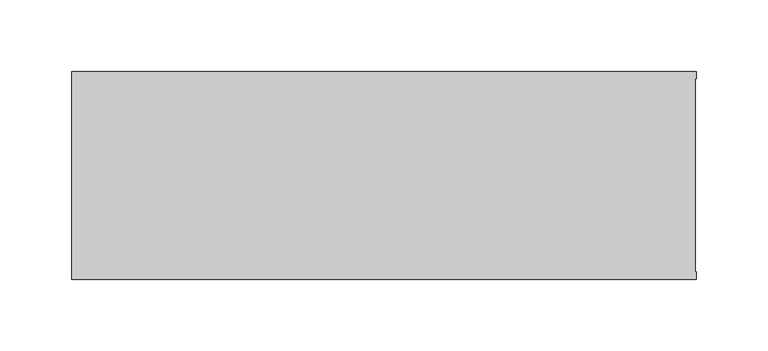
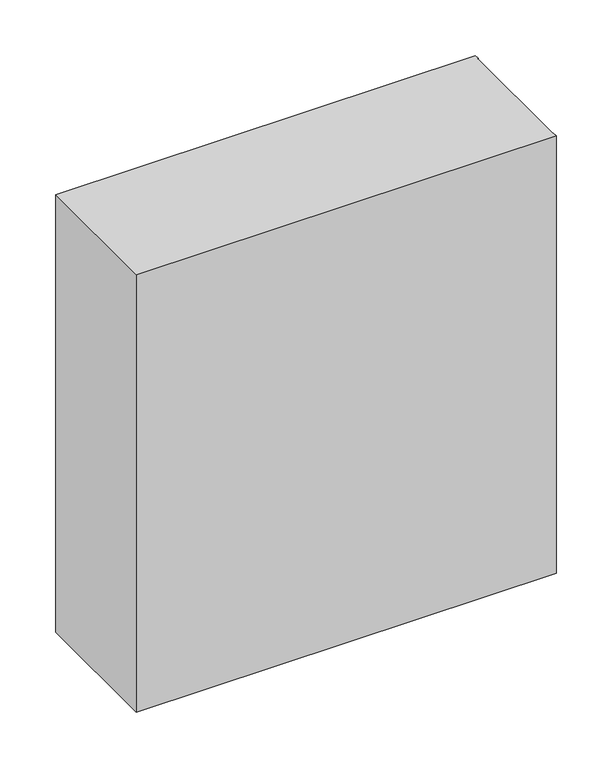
"""IFC4 building model written with IfcOpenShell, lengths in millimetres: proxy geometry, BIMHealth-Danicentre_ppe_Dispenser-LOD2A-v1 : BIMHealth-Danicentre_ppe_Dispenser-LOD2A-v1."""

import ifcopenshell
import ifcopenshell.guid

model = None  # the IFC model being written
_history = None  # IfcOwnerHistory: only IFC2X3 demands one
_inside = {}  # id of a spatial element -> (the spatial element, [elements in it])
_under = {}  # id of a project, library or spatial element -> (it, [spatial elements below it])
_declared = {}  # id of a project -> (the project, [libraries it declares])
_typed = {}  # id of a type object -> (the type object, [elements of that type])
_made_of = {}  # id of a material, layer set ... -> (it, [elements and type objects made of it])


def new_model(schema):
    """Start an empty IFC model of exactly this schema.

    Asked for "IFC4X3", IfcOpenShell would pick the latest addendum, in which some entities
    have other attributes; the version numbers below select the first issue.
    IFC2X3 requires an IfcOwnerHistory on every rooted entity: one is made here for all.
    """
    global model, _history
    if schema == "IFC4X3":
        model = ifcopenshell.file(schema_version=(4, 3, 0, 0))
    else:
        model = ifcopenshell.file(schema=schema)
    _inside.clear()
    _under.clear()
    _declared.clear()
    _typed.clear()
    _made_of.clear()
    _history = None
    if model.schema == "IFC2X3":
        org = make("IfcOrganization", Name="unknown")
        user = make(
            "IfcPersonAndOrganization",
            ThePerson=make("IfcPerson", FamilyName="unknown"),
            TheOrganization=org,
        )
        app = make(
            "IfcApplication",
            ApplicationDeveloper=org,
            Version="unknown",
            ApplicationFullName="unknown",
            ApplicationIdentifier="unknown",
        )
        _history = make(
            "IfcOwnerHistory",
            OwningUser=user,
            OwningApplication=app,
            ChangeAction="ADDED",
            CreationDate=0,
        )
    return model


def make(cls, **values):
    """One entity of the class cls with the attributes given. An attribute that is None is left unset."""
    return model.create_entity(
        cls, **{name: value for name, value in values.items() if value is not None}
    )


def rooted(cls, **values):
    """An entity with a GlobalId (a new one), such as an element, a storey or a relation."""
    return make(cls, GlobalId=ifcopenshell.guid.new(), OwnerHistory=_history, **values)


def si_unit(unit_type, name, prefix=None):
    """IfcSIUnit, for example si_unit("LENGTHUNIT", "METRE", prefix="MILLI")."""
    return make("IfcSIUnit", UnitType=unit_type, Prefix=prefix, Name=name)


def assignment(units):
    """IfcUnitAssignment: the units of a project."""
    return None if units is None else make("IfcUnitAssignment", Units=units)


def point(xyz):
    """IfcCartesianPoint."""
    return None if xyz is None else make("IfcCartesianPoint", Coordinates=xyz)


def direction(xyz):
    """IfcDirection."""
    return None if xyz is None else make("IfcDirection", DirectionRatios=xyz)


def frame(location, z_axis=None, x_axis=None):
    """IfcAxis2Placement3D, a coordinate frame: its origin and axes. An axis left out is left unset."""
    return make(
        "IfcAxis2Placement3D",
        Location=point(location),
        Axis=direction(z_axis),
        RefDirection=direction(x_axis),
    )


def origin():
    """The frame at (0, 0, 0) with its axes left unset."""
    return frame((0.0, 0.0, 0.0))


def place(relative_to, where):
    """IfcLocalPlacement: puts the frame where relative to a parent placement (None: the world)."""
    return make(
        "IfcLocalPlacement", PlacementRelTo=relative_to, RelativePlacement=where
    )


def context(
    kind, dimensions, precision=None, world=None, true_north=None, identifier=None
):
    """IfcGeometricRepresentationContext, for example the 3D "Model" context."""
    return make(
        "IfcGeometricRepresentationContext",
        ContextIdentifier=identifier,
        ContextType=kind,
        CoordinateSpaceDimension=dimensions,
        Precision=precision,
        WorldCoordinateSystem=world,
        TrueNorth=true_north,
    )


def project(units=None, contexts=None):
    """IfcProject with its units and contexts."""
    return rooted(
        "IfcProject",
        Name="project",
        RepresentationContexts=contexts,
        UnitsInContext=assignment(units),
    )


def spatial(cls, under=None, at=None, **own):
    """A site, building, storey or space (cls), placed at a placement, below another one or the project."""
    s = rooted(cls, ObjectPlacement=at, **own)
    if under is not None:
        _under.setdefault(under.id(), (under, []))[1].append(s)
    return s


def polyline(points):
    """IfcPolyline through the points."""
    return make("IfcPolyline", Points=[point(p) for p in points])


def circle_curve(where, radius):
    """IfcCircle in the frame where."""
    return make("IfcCircle", Position=where, Radius=radius)


def shape(context_of_items, identifier, shape_type, items):
    """IfcShapeRepresentation: the items that make up one representation, for example the "Body"."""
    return make(
        "IfcShapeRepresentation",
        ContextOfItems=context_of_items,
        RepresentationIdentifier=identifier,
        RepresentationType=shape_type,
        Items=items,
    )


def source(mapping_origin, context_of_items, identifier, shape_type, items):
    """IfcRepresentationMap: a shape defined once, which mapped items show again and again."""
    return make(
        "IfcRepresentationMap",
        MappingOrigin=mapping_origin,
        MappedRepresentation=shape(context_of_items, identifier, shape_type, items),
    )


def transform(
    local_origin,
    x_axis=None,
    y_axis=None,
    z_axis=None,
    scale=None,
    scale2=None,
    scale3=None,
    uniform=True,
):
    """IfcCartesianTransformationOperator3D, or its non-uniform kind. x_axis, y_axis, z_axis: its Axis1, 2, 3."""
    if uniform:
        return make(
            "IfcCartesianTransformationOperator3D",
            Axis1=direction(x_axis),
            Axis2=direction(y_axis),
            LocalOrigin=point(local_origin),
            Scale=scale,
            Axis3=direction(z_axis),
        )
    return make(
        "IfcCartesianTransformationOperator3DnonUniform",
        Axis1=direction(x_axis),
        Axis2=direction(y_axis),
        LocalOrigin=point(local_origin),
        Scale=scale,
        Axis3=direction(z_axis),
        Scale2=scale2,
        Scale3=scale3,
    )


def mapped(mapping_source, mapping_target):
    """IfcMappedItem: shows the shape of a source again, moved by a transform."""
    return make(
        "IfcMappedItem", MappingSource=mapping_source, MappingTarget=mapping_target
    )


def made_of(thing, what):
    """Note that an element or type object is made of a material, layer set ...; save() writes the relation."""
    if what is not None:
        _made_of.setdefault(what.id(), (what, []))[1].append(thing)
    return thing


def element(
    cls,
    number,
    at=None,
    inside=None,
    cuts=None,
    type_object=None,
    material=None,
    context=None,
    identifier="Body",
    shape_type=None,
    held_by="IfcProductDefinitionShape",
    body=None,
    shapes=None,
    **own,
):
    """One element of the class cls, such as IfcWall. Its Tag is "e" and its number.

    at: its placement. inside: the storey or other place that contains it. cuts: it is an
    opening in that element (IfcRelVoidsElement). A single representation is given by context,
    identifier, shape_type and body (its items); several are given by shapes. held_by: the class
    of the entity that holds the representations. save() writes the other relations.
    """
    e = rooted(cls, Tag="e%d" % number, ObjectPlacement=at, **own)
    if body is not None:
        shapes = [shape(context, identifier, shape_type, body)]
    if shapes is not None:
        e.Representation = make(held_by, Representations=shapes)
    if inside is not None:
        _inside.setdefault(inside.id(), (inside, []))[1].append(e)
    if cuts is not None:
        rooted(
            "IfcRelVoidsElement", RelatingBuildingElement=cuts, RelatedOpeningElement=e
        )
    if type_object is not None:
        _typed.setdefault(type_object.id(), (type_object, []))[1].append(e)
    return made_of(e, material)


def aggregate(whole, parts):
    """IfcRelAggregates: a whole, such as a stair, and the parts it consists of."""
    return rooted("IfcRelAggregates", RelatingObject=whole, RelatedObjects=parts)


def save(model, path):
    """Write the relations noted so far, then the file.

    IfcRelAggregates (storeys below a building ...), IfcRelContainedInSpatialStructure (elements
    in a storey), IfcRelDefinesByType, IfcRelAssociatesMaterial and IfcRelDeclares: one each for
    every whole, place, type object, material and project.
    """
    for whole, parts in _under.values():
        aggregate(whole, parts)
    for where, things in _inside.values():
        rooted(
            "IfcRelContainedInSpatialStructure",
            RelatedElements=things,
            RelatingStructure=where,
        )
    for kind, things in _typed.values():
        rooted("IfcRelDefinesByType", RelatedObjects=things, RelatingType=kind)
    for what, things in _made_of.values():
        rooted("IfcRelAssociatesMaterial", RelatedObjects=things, RelatingMaterial=what)
    for by, libraries in _declared.values():
        rooted("IfcRelDeclares", RelatingContext=by, RelatedDefinitions=libraries)
    model.write(path)


def plane_surface(at):
    """IfcPlane: the flat surface through the origin of the frame at, square to its z axis."""
    return make("IfcPlane", Position=at)


def revolved_surface(curve, axis_point, axis_direction):
    """IfcSurfaceOfRevolution: the curve turned about the line through axis_point along axis_direction."""
    return make(
        "IfcSurfaceOfRevolution",
        SweptCurve=make("IfcArbitraryOpenProfileDef", ProfileType="CURVE", Curve=curve),
        AxisPosition=make("IfcAxis1Placement", Location=point(axis_point), Axis=direction(axis_direction)),
    )


def advanced_brep(points, edges, surfaces, faces):
    """IfcAdvancedBrep: a solid bounded by faces that lie on surfaces and meet in shared edges.

    An edge is (start, end): straight between two places in points (the first is 0);
    or (start, end, curve); or (start, end, curve, False) where it runs against its curve.
    A face is (place in surfaces, loops), or (place, loops, False) where it looks against
    its surface's normal. A loop lists edges by number (the first is 1), with a minus sign
    where the edge is run from its end to its start. The first loop is the outer one.
    """
    corners = [point(p) for p in points]
    vertices = [make("IfcVertexPoint", VertexGeometry=c) for c in corners]
    made = []
    for start, end, *more in edges:
        made.append(
            make(
                "IfcEdgeCurve",
                EdgeStart=vertices[start],
                EdgeEnd=vertices[end],
                EdgeGeometry=more[0] if more else make("IfcPolyline", Points=[corners[start], corners[end]]),
                SameSense=more[1] if len(more) > 1 else True,
            )
        )
    hull = []
    for where, loops, *sense in faces:
        bounds = []
        for j, loop in enumerate(loops):
            ring = [make("IfcOrientedEdge", EdgeElement=made[abs(k) - 1], Orientation=k > 0) for k in loop]
            bounds.append(
                make(
                    "IfcFaceOuterBound" if j == 0 else "IfcFaceBound",
                    Bound=make("IfcEdgeLoop", EdgeList=ring),
                    Orientation=True,
                )
            )
        hull.append(make("IfcAdvancedFace", Bounds=bounds, FaceSurface=surfaces[where], SameSense=sense[0] if sense else True))
    return make("IfcAdvancedBrep", Outer=make("IfcClosedShell", CfsFaces=hull))


def generic_models_7e8e4800(model_context):
    return source(origin(), model_context, "Body", "AdvancedBrep", [
        advanced_brep(
        [(435.5947115, 0.0, 1680.0), (435.5947115, 0.0, 1200.0), (0.0, 0.0, 1200.0), (0.0, 0.0, 1680.0), (95.0, 0.0, 1600.0), (60.0, 0.0, 1600.0), (60.0, 0.0, 1425.0), (95.0, 0.0, 1425.0), (340.5947115, 0.0, 1600.0), (340.5947115, 0.0, 1425.0), (375.5947115, 0.0, 1425.0), (375.5947115, 0.0, 1600.0), (235.2973558, 0.0, 1600.0), (200.2973558, 0.0, 1600.0), (200.2973558, 0.0, 1425.0), (235.2973558, 0.0, 1425.0), (60.0, 0.0, 1255.0), (375.5947115, 0.0, 1255.0), (375.5947115, 0.0, 1270.0), (287.7973558, 0.0, 1270.0), (147.7973558, 0.0, 1270.0), (60.0, 0.0, 1270.0), (435.5947115, -5.0, 1200.0), (435.5947115, -5.0, 1680.0), (435.0, -5.0, 1680.0), (435.0, -5.0, 1200.0), (430.5947115, -5.0, 1205.0), (430.5947115, -5.0, 1675.0), (5.0, -5.0, 1675.0), (5.0, -5.0, 1205.0), (95.0, -5.0, 1600.0), (95.0, -5.0, 1425.0), (60.0, -5.0, 1425.0), (60.0, -5.0, 1600.0), (340.5947115, -5.0, 1600.0), (375.5947115, -5.0, 1600.0), (375.5947115, -5.0, 1425.0), (340.5947115, -5.0, 1425.0), (235.2973558, -5.0, 1600.0), (235.2973558, -5.0, 1425.0), (200.2973558, -5.0, 1425.0), (200.2973558, -5.0, 1600.0), (60.0, -5.0, 1255.0), (60.0, -5.0, 1270.0), (147.7973558, -5.0, 1270.0), (287.7973558, -5.0, 1270.0), (375.5947115, -5.0, 1270.0), (375.5947115, -5.0, 1255.0), (0.0, -145.0, 1680.0), (435.5947115, -145.0, 1680.0), (435.5947115, -140.0, 1680.0), (435.0, -140.0, 1680.0), (0.0, -145.0, 1200.0), (435.0, -140.0, 1200.0), (435.5947115, -140.0, 1200.0), (435.5947115, -145.0, 1200.0), (430.5947115, -140.0, 1675.0), (430.5947115, -140.0, 1205.0), (5.0, -140.0, 1205.0), (5.0, -140.0, 1675.0)],
        [
            (0, 1),
            (1, 2),
            (2, 3),
            (3, 0),
            (4, 5),
            (5, 6),
            (6, 7),
            (7, 4),
            (8, 9),
            (9, 10),
            (10, 11),
            (11, 8),
            (12, 13),
            (13, 14),
            (14, 15),
            (15, 12),
            (16, 17),
            (17, 18),
            (18, 19),
            (19, 20, circle_curve(frame((217.7973558, 0.0, 1234.1168757), z_axis=(0.0, -1.0, 0.0), x_axis=(1.0, 0.0, 0.0)), 78.6612904)),
            (20, 21),
            (21, 16),
            (22, 23),
            (23, 24),
            (24, 25),
            (25, 22),
            (26, 27),
            (27, 28),
            (28, 29),
            (29, 26),
            (30, 31),
            (31, 32),
            (32, 33),
            (33, 30),
            (34, 35),
            (35, 36),
            (36, 37),
            (37, 34),
            (38, 39),
            (39, 40),
            (40, 41),
            (41, 38),
            (42, 43),
            (43, 44),
            (44, 45, circle_curve(frame((217.7973558, -5.0, 1234.1168757), z_axis=(0.0, 1.0, 0.0), x_axis=(1.0, 0.0, 0.0)), 78.6612904)),
            (45, 46),
            (46, 47),
            (47, 42),
            (3, 48),
            (48, 49),
            (49, 50),
            (50, 51),
            (51, 24),
            (23, 0),
            (2, 52),
            (52, 48),
            (1, 22),
            (25, 53),
            (53, 54),
            (54, 55),
            (55, 52),
            (7, 31),
            (30, 4),
            (6, 32),
            (5, 33),
            (11, 35),
            (34, 8),
            (10, 36),
            (9, 37),
            (15, 39),
            (38, 12),
            (14, 40),
            (13, 41),
            (21, 43),
            (42, 16),
            (20, 44),
            (19, 45),
            (18, 46),
            (17, 47),
            (51, 53),
            (56, 27),
            (26, 57),
            (57, 56),
            (29, 58),
            (58, 57),
            (28, 59),
            (59, 58),
            (56, 59),
            (55, 49),
            (50, 54),
        ],
        [
            plane_surface(frame((435.5947115, 0.0, 1680.0), z_axis=(0.0, 1.0, 0.0), x_axis=(0.0, 0.0, -1.0))),
            plane_surface(frame((435.5947115, -5.0, 1680.0), z_axis=(0.0, -1.0, 0.0), x_axis=(0.0, 0.0, 1.0))),
            plane_surface(frame((0.0, 0.0, 1680.0), z_axis=(0.0, 0.0, 1.0), x_axis=(0.0, -1.0, 0.0))),
            plane_surface(frame((0.0, 0.0, 1200.0), z_axis=(-1.0, 0.0, 0.0), x_axis=(0.0, -1.0, 0.0))),
            plane_surface(frame((435.5947115, 0.0, 1200.0), z_axis=(0.0, 0.0, -1.0), x_axis=(0.0, -1.0, 0.0))),
            plane_surface(frame((435.5947115, 0.0, 1680.0), z_axis=(1.0, 0.0, 0.0), x_axis=(0.0, -1.0, 0.0))),
            plane_surface(frame((95.0, 0.0, 1425.0), z_axis=(-1.0, 0.0, 0.0), x_axis=(0.0, -1.0, 0.0))),
            plane_surface(frame((60.0, 0.0, 1425.0), z_axis=(0.0, 0.0, 1.0), x_axis=(0.0, -1.0, 0.0))),
            plane_surface(frame((60.0, 0.0, 1600.0), z_axis=(1.0, 0.0, 0.0), x_axis=(0.0, -1.0, 0.0))),
            plane_surface(frame((95.0, 0.0, 1600.0), z_axis=(0.0, 0.0, -1.0), x_axis=(0.0, -1.0, 0.0))),
            plane_surface(frame((375.5947115, 0.0, 1600.0), z_axis=(0.0, 0.0, -1.0), x_axis=(0.0, -1.0, 0.0))),
            plane_surface(frame((375.5947115, 0.0, 1425.0), z_axis=(-1.0, 0.0, 0.0), x_axis=(0.0, -1.0, 0.0))),
            plane_surface(frame((340.5947115, 0.0, 1425.0), z_axis=(0.0, 0.0, 1.0), x_axis=(0.0, -1.0, 0.0))),
            plane_surface(frame((340.5947115, 0.0, 1600.0), z_axis=(1.0, 0.0, 0.0), x_axis=(0.0, -1.0, 0.0))),
            plane_surface(frame((235.2973558, 0.0, 1425.0), z_axis=(-1.0, 0.0, 0.0), x_axis=(0.0, -1.0, 0.0))),
            plane_surface(frame((200.2973558, 0.0, 1425.0), z_axis=(0.0, 0.0, 1.0), x_axis=(0.0, -1.0, 0.0))),
            plane_surface(frame((200.2973558, 0.0, 1600.0), z_axis=(1.0, 0.0, 0.0), x_axis=(0.0, -1.0, 0.0))),
            plane_surface(frame((235.2973558, 0.0, 1600.0), z_axis=(0.0, 0.0, -1.0), x_axis=(0.0, -1.0, 0.0))),
            plane_surface(frame((60.0, 0.0, 1270.0), z_axis=(1.0, 0.0, 0.0), x_axis=(0.0, -1.0, 0.0))),
            plane_surface(frame((147.7973558, 0.0, 1270.0), z_axis=(0.0, 0.0, -1.0), x_axis=(0.0, -1.0, 0.0))),
            revolved_surface(polyline([(296.4586462, -5.0, 1234.1168757), (296.4586462, 0.0, 1234.1168757)]), (217.7973558, -140.0, 1234.1168757), (0.0, -1.0, 0.0)),
            plane_surface(frame((375.5947115, 0.0, 1270.0), z_axis=(0.0, 0.0, -1.0), x_axis=(0.0, -1.0, 0.0))),
            plane_surface(frame((375.5947115, 0.0, 1255.0), z_axis=(-1.0, 0.0, 0.0), x_axis=(0.0, -1.0, 0.0))),
            plane_surface(frame((60.0, 0.0, 1255.0), z_axis=(0.0, 0.0, 1.0), x_axis=(0.0, -1.0, 0.0))),
            plane_surface(frame((435.0, -140.0, 1200.0), z_axis=(1.0, 0.0, 0.0), x_axis=(0.0, 1.0, 0.0))),
            plane_surface(frame((430.5947115, -140.0, 1675.0), z_axis=(-1.0, 0.0, 0.0), x_axis=(0.0, 1.0, 0.0))),
            plane_surface(frame((430.5947115, -140.0, 1205.0), z_axis=(0.0, 0.0, 1.0), x_axis=(0.0, 1.0, 0.0))),
            plane_surface(frame((5.0, -140.0, 1205.0), z_axis=(1.0, 0.0, 0.0), x_axis=(0.0, 1.0, 0.0))),
            plane_surface(frame((5.0, -140.0, 1675.0), z_axis=(0.0, 0.0, -1.0), x_axis=(0.0, 1.0, 0.0))),
            plane_surface(frame((0.0, -145.0, 1680.0), z_axis=(0.0, -1.0, 0.0), x_axis=(-1.0, 0.0, 0.0))),
            plane_surface(frame((0.0, -140.0, 1680.0), z_axis=(0.0, 1.0, 0.0), x_axis=(1.0, 0.0, 0.0))),
            plane_surface(frame((435.5947115, -145.0, 1200.0), z_axis=(1.0, 0.0, 0.0), x_axis=(0.0, 1.0, 0.0))),
        ],
        [
            (0, [[1, 2, 3, 4], [5, 6, 7, 8], [9, 10, 11, 12], [13, 14, 15, 16], [17, 18, 19, 20, 21, 22]]),
            (1, [[23, 24, 25, 26]]),
            (1, [[27, 28, 29, 30], [31, 32, 33, 34], [35, 36, 37, 38], [39, 40, 41, 42], [43, 44, 45, 46, 47, 48]]),
            (2, [[-4, 49, 50, 51, 52, 53, -24, 54]]),
            (3, [[-49, -3, 55, 56]]),
            (4, [[-55, -2, 57, -26, 58, 59, 60, 61]]),
            (5, [[-1, -54, -23, -57]]),
            (6, [[-8, 62, -31, 63]]),
            (7, [[-7, 64, -32, -62]]),
            (8, [[-6, 65, -33, -64]]),
            (9, [[-5, -63, -34, -65]]),
            (10, [[-12, 66, -35, 67]]),
            (11, [[-11, 68, -36, -66]]),
            (12, [[-10, 69, -37, -68]]),
            (13, [[-9, -67, -38, -69]]),
            (14, [[-16, 70, -39, 71]]),
            (15, [[-15, 72, -40, -70]]),
            (16, [[-14, 73, -41, -72]]),
            (17, [[-13, -71, -42, -73]]),
            (18, [[-22, 74, -43, 75]]),
            (19, [[-21, 76, -44, -74]]),
            (20, [[-20, 77, -45, -76]]),
            (21, [[-19, 78, -46, -77]]),
            (22, [[-18, 79, -47, -78]]),
            (23, [[-17, -75, -48, -79]]),
            (24, [[-53, 80, -58, -25]]),
            (25, [[81, -27, 82, 83]]),
            (26, [[-82, -30, 84, 85]]),
            (27, [[-84, -29, 86, 87]]),
            (28, [[-81, 88, -86, -28]]),
            (29, [[-50, -56, -61, 89]]),
            (30, [[-83, -85, -87, -88]]),
            (30, [[90, -59, -80, -52]]),
            (31, [[-89, -60, -90, -51]]),
        ],
    ),
    ])


if __name__ == "__main__":
    model = new_model("IFC4")
    model_context = context("Model", 3, world=origin())
    ifc_project = project(units=[si_unit("LENGTHUNIT", "METRE", prefix="MILLI")], contexts=[model_context])
    site = spatial("IfcSite", under=ifc_project)
    building = spatial("IfcBuilding", under=site)
    placement = place(None, origin())
    generic_models_shape = generic_models_7e8e4800(model_context)
    element("IfcBuildingElementProxy", 1, Name="BIMHealth-Danicentre_ppe_Dispenser-LOD2A-v1 : BIMHealth-Danicentre_ppe_Dispenser-LOD2A-v1", ObjectType="BIMHealth-Danicentre_ppe_Dispenser-LOD2A-v1 : BIMHealth-Danicentre_ppe_Dispenser-LOD2A-v1", at=placement, inside=building, context=model_context, shape_type="MappedRepresentation", body=[
        mapped(generic_models_shape, transform((0.0, 0.0, 0.0), x_axis=(1.0, 0.0, 0.0), y_axis=(0.0, 1.0, 0.0), z_axis=(0.0, 0.0, 1.0))),
    ])
    save(model, "model.ifc")
